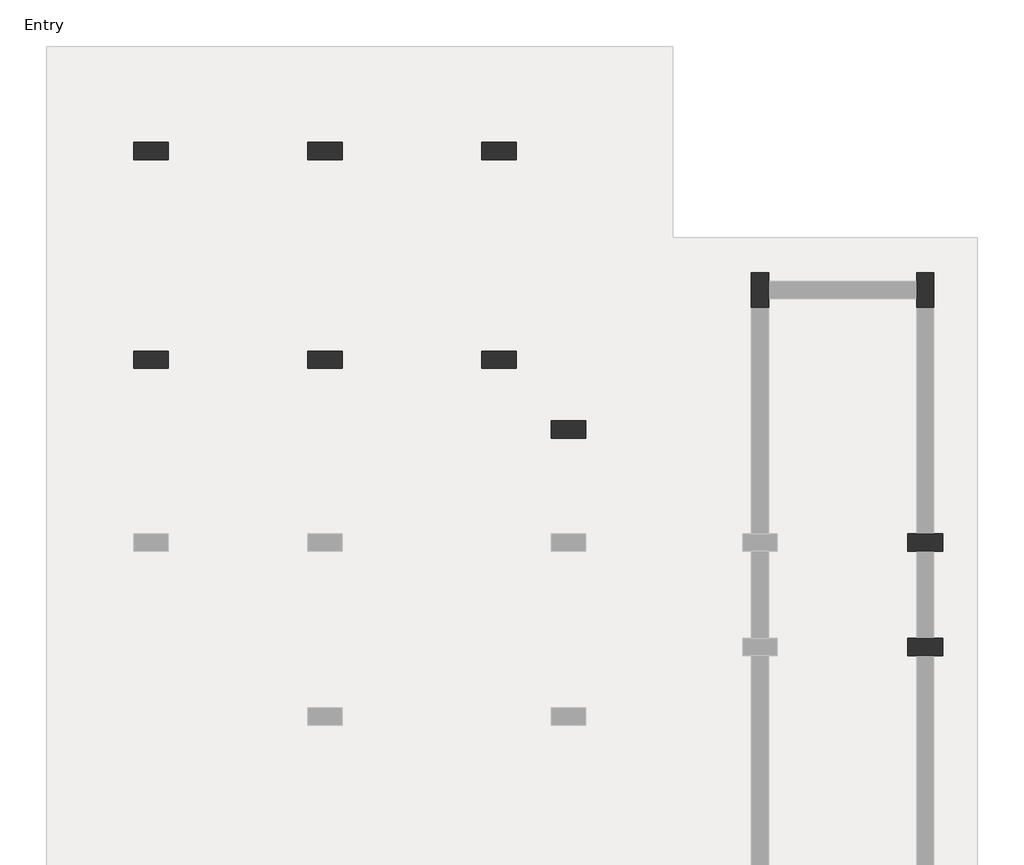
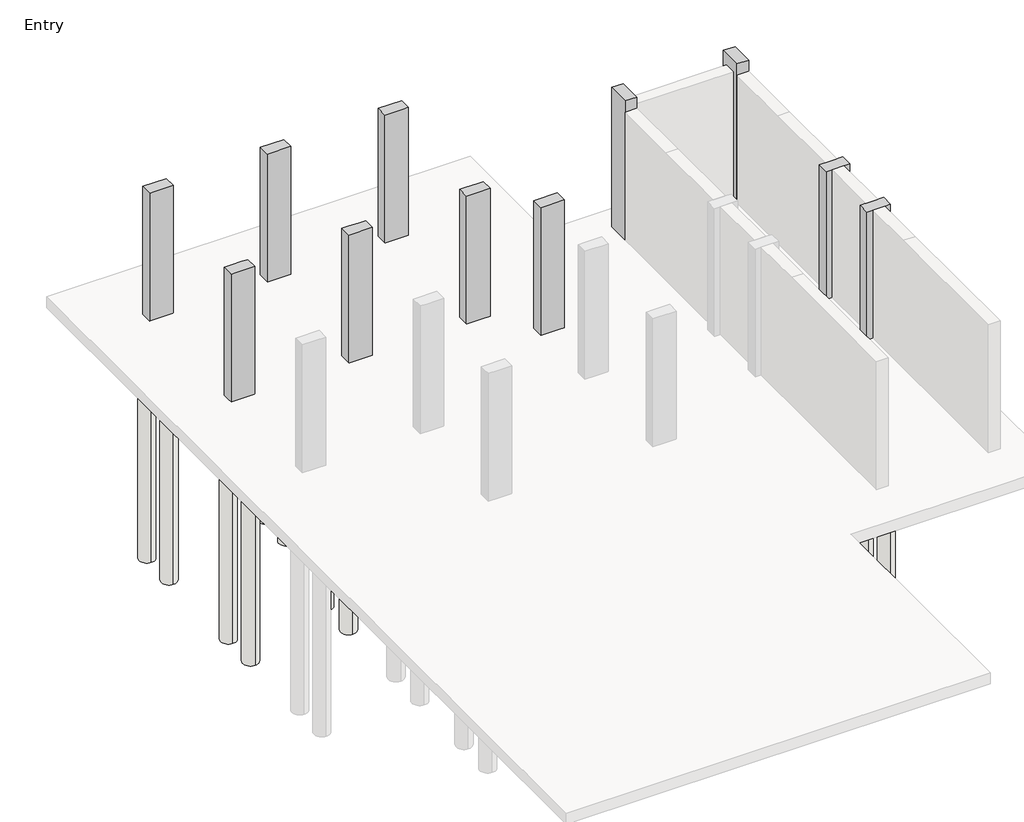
# One storey, part 3 of 3: 35 slabs, 11 columns.
"""IFC4 building model written with IfcOpenShell, lengths in millimetres."""

from ifc_helpers import new_model, si_unit, point, frame, frame_2d, origin, place, context, project, spatial, polyline, circle_curve, trimmed, segment, composite_curve, outline, extrude, faceted_brep, element, save

model = new_model("IFC4")

# Units and contexts
model_context = context("Model", 3, world=origin())
ifc_project = project(units=[si_unit("LENGTHUNIT", "METRE", prefix="MILLI")], contexts=[model_context])

# Site, building, storey
site = spatial("IfcSite", under=ifc_project)
building = spatial("IfcBuilding", under=site)
storey = spatial("IfcBuildingStorey", under=building, Name="Entry", Elevation=0.0)

# Columns
placement = place(None, origin())
element("IfcColumn", 1, ObjectType="Concrete-Rectangular-Column : 12 x 24", at=placement, inside=storey, context=model_context, shape_type="Brep", body=[
    faceted_brep([(-20960.8093661, 22401.5691779, 0.0), (-20351.2093661, 22401.5691779, 0.0), (-20351.2093661, 22096.7691779, 0.0), (-20960.8093661, 22096.7691779, 0.0), (-20960.8093661, 22401.5691779, 3505.2), (-20351.2093661, 22401.5691779, 3505.2), (-20351.2093661, 22401.5691779, 2895.6), (-20351.2093661, 22096.7691779, 3505.2), (-20351.2093661, 22096.7691779, 2895.6), (-20503.6093661, 22096.7691779, 3505.2), (-20808.4093661, 22096.7691779, 3505.2), (-20960.8093661, 22096.7691779, 3505.2)], [[[0, 1, 2, 3]], [[4, 5, 6, 1, 0]], [[5, 7, 8, 2, 1, 6]], [[7, 9, 10, 11, 3, 2, 8]], [[11, 4, 0, 3]], [[4, 11, 10, 9, 7, 5]]]),
])
element("IfcColumn", 2, ObjectType="Concrete-Rectangular-Column : 12 x 24", at=placement, inside=storey, context=model_context, shape_type="Brep", body=[
    faceted_brep([(-17912.8093661, 22401.5691779, 0.0), (-17303.2093661, 22401.5691779, 0.0), (-17303.2093661, 22096.7691779, 0.0), (-17912.8093661, 22096.7691779, 0.0), (-17912.8093661, 22401.5691779, 3505.2), (-17303.2093661, 22401.5691779, 3505.2), (-17303.2093661, 22401.5691779, 2895.6), (-17912.8093661, 22401.5691779, 2895.6), (-17303.2093661, 22096.7691779, 3505.2), (-17303.2093661, 22096.7691779, 2895.6), (-17455.6093661, 22096.7691779, 3505.2), (-17760.4093661, 22096.7691779, 3505.2), (-17912.8093661, 22096.7691779, 3505.2), (-17912.8093661, 22096.7691779, 2895.6)], [[[0, 1, 2, 3]], [[4, 5, 6, 1, 0, 7]], [[5, 8, 9, 2, 1, 6]], [[8, 10, 11, 12, 13, 3, 2, 9]], [[12, 4, 7, 0, 3, 13]], [[4, 12, 11, 10, 8, 5]]]),
])
element("IfcColumn", 3, ObjectType="Concrete-Rectangular-Column : 12 x 24", at=placement, inside=storey, context=model_context, shape_type="Brep", body=[
    faceted_brep([(-14864.8093661, 22401.5691779, 0.0), (-14255.2093661, 22401.5691779, 0.0), (-14255.2093661, 22096.7691779, 0.0), (-14864.8093661, 22096.7691779, 0.0), (-14864.8093661, 22401.5691779, 3505.2), (-14255.2093661, 22401.5691779, 3505.2), (-14864.8093661, 22401.5691779, 2895.6), (-14255.2093661, 22096.7691779, 3505.2), (-14407.6093661, 22096.7691779, 3505.2), (-14712.4093661, 22096.7691779, 3505.2), (-14864.8093661, 22096.7691779, 3505.2), (-14864.8093661, 22096.7691779, 2895.6)], [[[0, 1, 2, 3]], [[4, 5, 1, 0, 6]], [[5, 7, 2, 1]], [[7, 8, 9, 10, 11, 3, 2]], [[10, 4, 6, 0, 3, 11]], [[4, 10, 9, 8, 7, 5]]]),
])
element("IfcColumn", 4, ObjectType="Concrete-Rectangular-Column : 12 x 24", at=placement, inside=storey, context=model_context, shape_type="Brep", body=[
    faceted_brep([(-20960.8093661, 18743.9691779, 0.0), (-20351.2093661, 18743.9691779, 0.0), (-20351.2093661, 18439.1691779, 0.0), (-20960.8093661, 18439.1691779, 0.0), (-20960.8093661, 18743.9691779, 3505.2), (-20808.4093661, 18743.9691779, 3505.2), (-20503.6093661, 18743.9691779, 3505.2), (-20351.2093661, 18743.9691779, 3505.2), (-20351.2093661, 18743.9691779, 2895.6), (-20351.2093661, 18439.1691779, 3505.2), (-20351.2093661, 18439.1691779, 2895.6), (-20503.6093661, 18439.1691779, 3505.2), (-20808.4093661, 18439.1691779, 3505.2), (-20960.8093661, 18439.1691779, 3505.2)], [[[0, 1, 2, 3]], [[4, 5, 6, 7, 8, 1, 0]], [[7, 9, 10, 2, 1, 8]], [[9, 11, 12, 13, 3, 2, 10]], [[13, 4, 0, 3]], [[4, 13, 12, 11, 9, 7, 6, 5]]]),
])
element("IfcColumn", 5, ObjectType="Concrete-Rectangular-Column : 12 x 24", at=placement, inside=storey, context=model_context, shape_type="Brep", body=[
    faceted_brep([(-17912.8093661, 18743.9691779, 0.0), (-17303.2093661, 18743.9691779, 0.0), (-17303.2093661, 18439.1691779, 0.0), (-17912.8093661, 18439.1691779, 0.0), (-17912.8093661, 18743.9691779, 3505.2), (-17760.4093661, 18743.9691779, 3505.2), (-17455.6093661, 18743.9691779, 3505.2), (-17303.2093661, 18743.9691779, 3505.2), (-17303.2093661, 18743.9691779, 2895.6), (-17912.8093661, 18743.9691779, 2895.6), (-17303.2093661, 18439.1691779, 3505.2), (-17303.2093661, 18439.1691779, 2895.6), (-17455.6093661, 18439.1691779, 3505.2), (-17760.4093661, 18439.1691779, 3505.2), (-17912.8093661, 18439.1691779, 3505.2), (-17912.8093661, 18439.1691779, 2895.6)], [[[0, 1, 2, 3]], [[4, 5, 6, 7, 8, 1, 0, 9]], [[7, 10, 11, 2, 1, 8]], [[10, 12, 13, 14, 15, 3, 2, 11]], [[14, 4, 9, 0, 3, 15]], [[4, 14, 13, 12, 10, 7, 6, 5]]]),
])
element("IfcColumn", 6, ObjectType="Concrete-Rectangular-Column : 12 x 24", at=placement, inside=storey, context=model_context, shape_type="Brep", body=[
    faceted_brep([(-14864.8093661, 18743.9691779, 0.0), (-14255.2093661, 18743.9691779, 0.0), (-14255.2093661, 18439.1691779, 0.0), (-14864.8093661, 18439.1691779, 0.0), (-14864.8093661, 18743.9691779, 3505.2), (-14712.4093661, 18743.9691779, 3505.2), (-14407.6093661, 18743.9691779, 3505.2), (-14255.2093661, 18743.9691779, 3505.2), (-14864.8093661, 18743.9691779, 2895.6), (-14255.2093661, 18439.1691779, 3505.2), (-14407.6093661, 18439.1691779, 3505.2), (-14712.4093661, 18439.1691779, 3505.2), (-14864.8093661, 18439.1691779, 3505.2), (-14864.8093661, 18439.1691779, 2895.6)], [[[0, 1, 2, 3]], [[4, 5, 6, 7, 1, 0, 8]], [[7, 9, 2, 1]], [[9, 10, 11, 12, 13, 3, 2]], [[12, 4, 8, 0, 3, 13]], [[4, 12, 11, 10, 9, 7, 6, 5]]]),
])
element("IfcColumn", 7, ObjectType="Concrete-Rectangular-Column : 12 x 24", at=placement, inside=storey, context=model_context, shape_type="Brep", body=[
    faceted_brep([(-13645.6093661, 17524.7691779, 0.0), (-13036.0093661, 17524.7691779, 0.0), (-13036.0093661, 17219.9691779, 0.0), (-13645.6093661, 17219.9691779, 0.0), (-13645.6093661, 17524.7691779, 3505.2), (-13036.0093661, 17524.7691779, 3505.2), (-13645.6093661, 17524.7691779, 2895.6), (-13036.0093661, 17219.9691779, 3505.2), (-13188.4093661, 17219.9691779, 3505.2), (-13493.2093661, 17219.9691779, 3505.2), (-13645.6093661, 17219.9691779, 3505.2), (-13645.6093661, 17219.9691779, 2895.6)], [[[0, 1, 2, 3]], [[4, 5, 1, 0, 6]], [[5, 7, 2, 1]], [[7, 8, 9, 10, 11, 3, 2]], [[10, 4, 6, 0, 3, 11]], [[4, 10, 9, 8, 7, 5]]]),
])
element("IfcColumn", 8, ObjectType="Concrete-Rectangular-Column : 12 x 24", at=placement, inside=storey, context=model_context, shape_type="Brep", body=[
    faceted_brep([(-7397.2093661, 15543.5691779, 0.0), (-7244.8093661, 15543.5691779, 0.0), (-6940.0093661, 15543.5691779, 0.0), (-6787.6093661, 15543.5691779, 0.0), (-6787.6093661, 15238.7691779, 0.0), (-6940.0093661, 15238.7691779, 0.0), (-7244.8093661, 15238.7691779, 0.0), (-7397.2093661, 15238.7691779, 0.0), (-7397.2093661, 15543.5691779, 3505.2), (-7244.8093661, 15543.5691779, 3505.2), (-6940.0093661, 15543.5691779, 3505.2), (-6787.6093661, 15543.5691779, 3505.2), (-6787.6093661, 15238.7691779, 3505.2), (-6940.0093661, 15238.7691779, 3505.2), (-7244.8093661, 15238.7691779, 3505.2), (-7397.2093661, 15238.7691779, 3505.2)], [[[0, 1, 2, 3, 4, 5, 6, 7]], [[3, 2, 1, 0, 8, 9, 10, 11]], [[4, 3, 11, 12]], [[7, 6, 5, 4, 12, 13, 14, 15]], [[0, 7, 15, 8]], [[11, 10, 9, 8, 15, 14, 13, 12]]]),
])
element("IfcColumn", 9, ObjectType="Concrete-Rectangular-Column : 12 x 24", at=placement, inside=storey, context=model_context, shape_type="Brep", body=[
    faceted_brep([(-7397.2093661, 13714.7691779, 0.0), (-7244.8093661, 13714.7691779, 0.0), (-6940.0093661, 13714.7691779, 0.0), (-6787.6093661, 13714.7691779, 0.0), (-6787.6093661, 13409.9691779, 0.0), (-6940.0093661, 13409.9691779, 0.0), (-7244.8093661, 13409.9691779, 0.0), (-7397.2093661, 13409.9691779, 0.0), (-7397.2093661, 13714.7691779, 3505.2), (-7244.8093661, 13714.7691779, 3505.2), (-6940.0093661, 13714.7691779, 3505.2), (-6787.6093661, 13714.7691779, 3505.2), (-6787.6093661, 13409.9691779, 3505.2), (-6940.0093661, 13409.9691779, 3505.2), (-7244.8093661, 13409.9691779, 3505.2), (-7397.2093661, 13409.9691779, 3505.2)], [[[0, 1, 2, 3, 4, 5, 6, 7]], [[3, 2, 1, 0, 8, 9, 10, 11]], [[4, 3, 11, 12]], [[7, 6, 5, 4, 12, 13, 14, 15]], [[0, 7, 15, 8]], [[11, 10, 9, 8, 15, 14, 13, 12]]]),
])
element("IfcColumn", 10, ObjectType="Concrete-Rectangular-Column : 12 x 24", at=placement, inside=storey, context=model_context, shape_type="Brep", body=[
    faceted_brep([(-10140.4093661, 19505.9691779, 0.0), (-10140.4093661, 20115.5691779, 0.0), (-9835.6093661, 20115.5691779, 0.0), (-9835.6093661, 19963.1691779, 0.0), (-9835.6093661, 19658.3691779, 0.0), (-9835.6093661, 19505.9691779, 0.0), (-10140.4093661, 19505.9691779, 3810.0), (-10140.4093661, 20115.5691779, 3810.0), (-10140.4093661, 19505.9691779, 3505.2), (-9835.6093661, 20115.5691779, 3810.0), (-9835.6093661, 19505.9691779, 3810.0), (-9835.6093661, 19505.9691779, 3505.2)], [[[0, 1, 2, 3, 4, 5]], [[6, 7, 1, 0, 8]], [[7, 9, 2, 1]], [[9, 10, 11, 5, 4, 3, 2]], [[10, 6, 8, 0, 5, 11]], [[6, 10, 9, 7]]]),
])
element("IfcColumn", 11, ObjectType="Concrete-Rectangular-Column : 12 x 24", at=placement, inside=storey, context=model_context, shape_type="Brep", body=[
    faceted_brep([(-7244.8093661, 19505.9691779, 0.0), (-7244.8093661, 19658.3691779, 0.0), (-7244.8093661, 19963.1691779, 0.0), (-7244.8093661, 20115.5691779, 0.0), (-6940.0093661, 20115.5691779, 0.0), (-6940.0093661, 19505.9691779, 0.0), (-7244.8093661, 19505.9691779, 3810.0), (-7244.8093661, 20115.5691779, 3810.0), (-7244.8093661, 19505.9691779, 3505.2), (-6940.0093661, 20115.5691779, 3810.0), (-6940.0093661, 19505.9691779, 3810.0), (-6940.0093661, 19505.9691779, 3505.2)], [[[0, 1, 2, 3, 4, 5]], [[6, 7, 3, 2, 1, 0, 8]], [[7, 9, 4, 3]], [[9, 10, 11, 5, 4]], [[10, 6, 8, 0, 5, 11]], [[6, 10, 9, 7]]]),
])

# Slabs
element("IfcSlab", 12, ObjectType="Pile Cap-2 Pile : 31\"x61\"x35\"", at=placement, inside=storey, context=model_context, shape_type="SweptSolid", body=[
    extrude(outline(polyline([(-21062.4093661, 23150.8691779), (-20249.6093661, 23150.8691779), (-20249.6093661, 21347.4691779), (-21062.4093661, 21347.4691779), (-21062.4093661, 23150.8691779)])), frame((0.0, 0.0, -889.0), z_axis=(0.0, 0.0, 1.0), x_axis=(1.0, 0.0, 0.0)), (0.0, 0.0, 1.0), 584.2),
])
element("IfcSlab", 13, ObjectType="Pile Cap-2 Pile : 31\"x61\"x35\"", at=placement, inside=storey, context=model_context, shape_type="SweptSolid", body=[
    extrude(outline(polyline([(-18014.4093661, 23150.8691779), (-17201.6093661, 23150.8691779), (-17201.6093661, 21347.4691779), (-18014.4093661, 21347.4691779), (-18014.4093661, 23150.8691779)])), frame((0.0, 0.0, -889.0), z_axis=(0.0, 0.0, 1.0), x_axis=(1.0, 0.0, 0.0)), (0.0, 0.0, 1.0), 584.2),
])
element("IfcSlab", 14, ObjectType="Pile Cap-2 Pile : 31\"x61\"x35\"", at=placement, inside=storey, context=model_context, shape_type="SweptSolid", body=[
    extrude(outline(polyline([(-14966.4093661, 23150.8691779), (-14153.6093661, 23150.8691779), (-14153.6093661, 21347.4691779), (-14966.4093661, 21347.4691779), (-14966.4093661, 23150.8691779)])), frame((0.0, 0.0, -889.0), z_axis=(0.0, 0.0, 1.0), x_axis=(1.0, 0.0, 0.0)), (0.0, 0.0, 1.0), 584.2),
])
element("IfcSlab", 15, ObjectType="Pile Cap-2 Pile : 31\"x61\"x35\"", at=placement, inside=storey, context=model_context, shape_type="Brep", body=[
    faceted_brep([(-14966.4093661, 19493.2691779, -889.0), (-14153.6093661, 19493.2691779, -889.0), (-14153.6093661, 17778.7691779, -889.0), (-14153.6093661, 17689.8691779, -889.0), (-14242.5093661, 17689.8691779, -889.0), (-14966.4093661, 17689.8691779, -889.0), (-14966.4093661, 17689.8691779, -304.8), (-14966.4093661, 19493.2691779, -304.8), (-14153.6093661, 17689.8691779, -304.8), (-14242.5093661, 17689.8691779, -304.8), (-14153.6093661, 19493.2691779, -304.8), (-14153.6093661, 17778.7691779, -304.8)], [[[0, 1, 2, 3, 4, 5]], [[0, 5, 6, 7]], [[5, 4, 3, 8, 9, 6]], [[3, 2, 1, 10, 11, 8]], [[1, 0, 7, 10]], [[7, 6, 9, 8, 11, 10]]]),
])
element("IfcSlab", 16, ObjectType="Pile Cap-2 Pile : 31\"x61\"x35\"", at=placement, inside=storey, context=model_context, shape_type="SweptSolid", body=[
    extrude(outline(polyline([(-21062.4093661, 19493.2691779), (-20249.6093661, 19493.2691779), (-20249.6093661, 17689.8691779), (-21062.4093661, 17689.8691779), (-21062.4093661, 19493.2691779)])), frame((0.0, 0.0, -889.0), z_axis=(0.0, 0.0, 1.0), x_axis=(1.0, 0.0, 0.0)), (0.0, 0.0, 1.0), 584.2),
])
element("IfcSlab", 17, ObjectType="Pile Cap-2 Pile : 31\"x61\"x35\"", at=placement, inside=storey, context=model_context, shape_type="SweptSolid", body=[
    extrude(outline(polyline([(-10889.7093661, 19404.3691779), (-10889.7093661, 20217.1691779), (-9086.3093661, 20217.1691779), (-9086.3093661, 19404.3691779), (-10889.7093661, 19404.3691779)])), frame((0.0, 0.0, -889.0), z_axis=(0.0, 0.0, 1.0), x_axis=(1.0, 0.0, 0.0)), (0.0, 0.0, 1.0), 584.2),
])
element("IfcSlab", 18, ObjectType="Pile Cap-2 Pile : 31\"x61\"x35\"", at=placement, inside=storey, context=model_context, shape_type="SweptSolid", body=[
    extrude(outline(polyline([(-7994.1093661, 19404.3691779), (-7994.1093661, 20217.1691779), (-6190.7093661, 20217.1691779), (-6190.7093661, 19404.3691779), (-7994.1093661, 19404.3691779)])), frame((0.0, 0.0, -889.0), z_axis=(0.0, 0.0, 1.0), x_axis=(1.0, 0.0, 0.0)), (0.0, 0.0, 1.0), 584.2),
])
element("IfcSlab", 19, ObjectType="Pile Cap-2 Pile : 31\"x61\"x35\"", at=placement, inside=storey, context=model_context, shape_type="SweptSolid", body=[
    extrude(outline(polyline([(-7498.8093661, 16292.8691779), (-6686.0093661, 16292.8691779), (-6686.0093661, 14489.4691779), (-7498.8093661, 14489.4691779), (-7498.8093661, 16292.8691779)])), frame((0.0, 0.0, -889.0), z_axis=(0.0, 0.0, 1.0), x_axis=(1.0, 0.0, 0.0)), (0.0, 0.0, 1.0), 584.2),
])
element("IfcSlab", 20, ObjectType="Pile Cap-2 Pile : 31\"x61\"x35\"", at=placement, inside=storey, context=model_context, shape_type="SweptSolid", body=[
    extrude(outline(polyline([(-7498.8093661, 14464.0691779), (-6686.0093661, 14464.0691779), (-6686.0093661, 12660.6691779), (-7498.8093661, 12660.6691779), (-7498.8093661, 14464.0691779)])), frame((0.0, 0.0, -889.0), z_axis=(0.0, 0.0, 1.0), x_axis=(1.0, 0.0, 0.0)), (0.0, 0.0, 1.0), 584.2),
])
element("IfcSlab", 21, ObjectType="Pile Cap-2 Pile : 31\"x61\"x35\"", at=placement, inside=storey, context=model_context, shape_type="SweptSolid", body=[
    extrude(outline(polyline([(-12439.1093661, 17778.7691779), (-12439.1093661, 16965.9691779), (-14242.5093661, 16965.9691779), (-14242.5093661, 17689.8691779), (-14153.6093661, 17689.8691779), (-14153.6093661, 17778.7691779), (-12439.1093661, 17778.7691779)])), frame((0.0, 0.0, -889.0), z_axis=(0.0, 0.0, 1.0), x_axis=(1.0, 0.0, 0.0)), (0.0, 0.0, 1.0), 584.2),
])
element("IfcSlab", 22, ObjectType="Pile Cap-4 Pile : 72\"x72\"x35\"", at=placement, inside=storey, context=model_context, shape_type="SweptSolid", body=[
    extrude(outline(polyline([(-18522.4093661, 19505.9691779), (-16693.6093661, 19505.9691779), (-16693.6093661, 17677.1691779), (-18522.4093661, 17677.1691779), (-18522.4093661, 19505.9691779)])), frame((0.0, 0.0, -889.0), z_axis=(0.0, 0.0, 1.0), x_axis=(1.0, 0.0, 0.0)), (0.0, 0.0, 1.0), 584.2),
])
element("IfcSlab", 23, ObjectType="Pile-Steel Pipe : 16\" Diameter", at=placement, inside=storey, context=model_context, shape_type="SweptSolid", body=[
    extrude(outline(composite_curve([segment(trimmed(circle_curve(frame_2d((-18141.4093661, 18058.1691779)), 203.2), [point((-18141.4093661, 17854.9691779))], [point((-18141.4093661, 18261.3691779))], False, "CARTESIAN"), True, "CONTINUOUS"), segment(trimmed(circle_curve(frame_2d((-18141.4093661, 18058.1691779)), 203.2), [point((-18141.4093661, 18261.3691779))], [point((-18141.4093661, 17854.9691779))], False, "CARTESIAN"), True, "CONTINUOUS")], self_intersect=False)), frame((0.0, 0.0, -6985.0), z_axis=(0.0, 0.0, 1.0), x_axis=(1.0, 0.0, 0.0)), (0.0, 0.0, 1.0), 6096.0),
])
element("IfcSlab", 24, ObjectType="Pile-Steel Pipe : 16\" Diameter", at=placement, inside=storey, context=model_context, shape_type="SweptSolid", body=[
    extrude(outline(composite_curve([segment(trimmed(circle_curve(frame_2d((-17074.6093661, 18058.1691779)), 203.2), [point((-17074.6093661, 17854.9691779))], [point((-17074.6093661, 18261.3691779))], False, "CARTESIAN"), True, "CONTINUOUS"), segment(trimmed(circle_curve(frame_2d((-17074.6093661, 18058.1691779)), 203.2), [point((-17074.6093661, 18261.3691779))], [point((-17074.6093661, 17854.9691779))], False, "CARTESIAN"), True, "CONTINUOUS")], self_intersect=False)), frame((0.0, 0.0, -6985.0), z_axis=(0.0, 0.0, 1.0), x_axis=(1.0, 0.0, 0.0)), (0.0, 0.0, 1.0), 6096.0),
])
element("IfcSlab", 25, ObjectType="Pile-Steel Pipe : 16\" Diameter", at=placement, inside=storey, context=model_context, shape_type="SweptSolid", body=[
    extrude(outline(composite_curve([segment(trimmed(circle_curve(frame_2d((-17074.6093661, 19124.9691779)), 203.2), [point((-17074.6093661, 18921.7691779))], [point((-17074.6093661, 19328.1691779))], False, "CARTESIAN"), True, "CONTINUOUS"), segment(trimmed(circle_curve(frame_2d((-17074.6093661, 19124.9691779)), 203.2), [point((-17074.6093661, 19328.1691779))], [point((-17074.6093661, 18921.7691779))], False, "CARTESIAN"), True, "CONTINUOUS")], self_intersect=False)), frame((0.0, 0.0, -6985.0), z_axis=(0.0, 0.0, 1.0), x_axis=(1.0, 0.0, 0.0)), (0.0, 0.0, 1.0), 6096.0),
])
element("IfcSlab", 26, ObjectType="Pile-Steel Pipe : 16\" Diameter", at=placement, inside=storey, context=model_context, shape_type="SweptSolid", body=[
    extrude(outline(composite_curve([segment(trimmed(circle_curve(frame_2d((-18141.4093661, 19124.9691779)), 203.2), [point((-18141.4093661, 18921.7691779))], [point((-18141.4093661, 19328.1691779))], False, "CARTESIAN"), True, "CONTINUOUS"), segment(trimmed(circle_curve(frame_2d((-18141.4093661, 19124.9691779)), 203.2), [point((-18141.4093661, 19328.1691779))], [point((-18141.4093661, 18921.7691779))], False, "CARTESIAN"), True, "CONTINUOUS")], self_intersect=False)), frame((0.0, 0.0, -6985.0), z_axis=(0.0, 0.0, 1.0), x_axis=(1.0, 0.0, 0.0)), (0.0, 0.0, 1.0), 6096.0),
])
element("IfcSlab", 27, ObjectType="Pile-Steel Pipe : 16\" Diameter", at=placement, inside=storey, context=model_context, shape_type="SweptSolid", body=[
    extrude(outline(composite_curve([segment(trimmed(circle_curve(frame_2d((-20656.0093661, 22744.4691779)), 203.2), [point((-20656.0093661, 22541.2691779))], [point((-20656.0093661, 22947.6691779))], False, "CARTESIAN"), True, "CONTINUOUS"), segment(trimmed(circle_curve(frame_2d((-20656.0093661, 22744.4691779)), 203.2), [point((-20656.0093661, 22947.6691779))], [point((-20656.0093661, 22541.2691779))], False, "CARTESIAN"), True, "CONTINUOUS")], self_intersect=False)), frame((0.0, 0.0, -6985.0), z_axis=(0.0, 0.0, 1.0), x_axis=(1.0, 0.0, 0.0)), (0.0, 0.0, 1.0), 6096.0),
])
element("IfcSlab", 28, ObjectType="Pile-Steel Pipe : 16\" Diameter", at=placement, inside=storey, context=model_context, shape_type="SweptSolid", body=[
    extrude(outline(composite_curve([segment(trimmed(circle_curve(frame_2d((-20656.0093661, 21753.8691779)), 203.2), [point((-20656.0093661, 21550.6691779))], [point((-20656.0093661, 21957.0691779))], False, "CARTESIAN"), True, "CONTINUOUS"), segment(trimmed(circle_curve(frame_2d((-20656.0093661, 21753.8691779)), 203.2), [point((-20656.0093661, 21957.0691779))], [point((-20656.0093661, 21550.6691779))], False, "CARTESIAN"), True, "CONTINUOUS")], self_intersect=False)), frame((0.0, 0.0, -6985.0), z_axis=(0.0, 0.0, 1.0), x_axis=(1.0, 0.0, 0.0)), (0.0, 0.0, 1.0), 6096.0),
])
element("IfcSlab", 29, ObjectType="Pile-Steel Pipe : 16\" Diameter", at=placement, inside=storey, context=model_context, shape_type="SweptSolid", body=[
    extrude(outline(composite_curve([segment(trimmed(circle_curve(frame_2d((-17608.0093661, 22744.4691779)), 203.2), [point((-17608.0093661, 22541.2691779))], [point((-17608.0093661, 22947.6691779))], False, "CARTESIAN"), True, "CONTINUOUS"), segment(trimmed(circle_curve(frame_2d((-17608.0093661, 22744.4691779)), 203.2), [point((-17608.0093661, 22947.6691779))], [point((-17608.0093661, 22541.2691779))], False, "CARTESIAN"), True, "CONTINUOUS")], self_intersect=False)), frame((0.0, 0.0, -6985.0), z_axis=(0.0, 0.0, 1.0), x_axis=(1.0, 0.0, 0.0)), (0.0, 0.0, 1.0), 6096.0),
])
element("IfcSlab", 30, ObjectType="Pile-Steel Pipe : 16\" Diameter", at=placement, inside=storey, context=model_context, shape_type="SweptSolid", body=[
    extrude(outline(composite_curve([segment(trimmed(circle_curve(frame_2d((-17608.0093661, 21753.8691779)), 203.2), [point((-17608.0093661, 21550.6691779))], [point((-17608.0093661, 21957.0691779))], False, "CARTESIAN"), True, "CONTINUOUS"), segment(trimmed(circle_curve(frame_2d((-17608.0093661, 21753.8691779)), 203.2), [point((-17608.0093661, 21957.0691779))], [point((-17608.0093661, 21550.6691779))], False, "CARTESIAN"), True, "CONTINUOUS")], self_intersect=False)), frame((0.0, 0.0, -6985.0), z_axis=(0.0, 0.0, 1.0), x_axis=(1.0, 0.0, 0.0)), (0.0, 0.0, 1.0), 6096.0),
])
element("IfcSlab", 31, ObjectType="Pile-Steel Pipe : 16\" Diameter", at=placement, inside=storey, context=model_context, shape_type="SweptSolid", body=[
    extrude(outline(composite_curve([segment(trimmed(circle_curve(frame_2d((-14560.0093661, 22744.4691779)), 203.2), [point((-14560.0093661, 22541.2691779))], [point((-14560.0093661, 22947.6691779))], False, "CARTESIAN"), True, "CONTINUOUS"), segment(trimmed(circle_curve(frame_2d((-14560.0093661, 22744.4691779)), 203.2), [point((-14560.0093661, 22947.6691779))], [point((-14560.0093661, 22541.2691779))], False, "CARTESIAN"), True, "CONTINUOUS")], self_intersect=False)), frame((0.0, 0.0, -6985.0), z_axis=(0.0, 0.0, 1.0), x_axis=(1.0, 0.0, 0.0)), (0.0, 0.0, 1.0), 6096.0),
])
element("IfcSlab", 32, ObjectType="Pile-Steel Pipe : 16\" Diameter", at=placement, inside=storey, context=model_context, shape_type="SweptSolid", body=[
    extrude(outline(composite_curve([segment(trimmed(circle_curve(frame_2d((-14560.0093661, 21753.8691779)), 203.2), [point((-14560.0093661, 21550.6691779))], [point((-14560.0093661, 21957.0691779))], False, "CARTESIAN"), True, "CONTINUOUS"), segment(trimmed(circle_curve(frame_2d((-14560.0093661, 21753.8691779)), 203.2), [point((-14560.0093661, 21957.0691779))], [point((-14560.0093661, 21550.6691779))], False, "CARTESIAN"), True, "CONTINUOUS")], self_intersect=False)), frame((0.0, 0.0, -6985.0), z_axis=(0.0, 0.0, 1.0), x_axis=(1.0, 0.0, 0.0)), (0.0, 0.0, 1.0), 6096.0),
])
element("IfcSlab", 33, ObjectType="Pile-Steel Pipe : 16\" Diameter", at=placement, inside=storey, context=model_context, shape_type="SweptSolid", body=[
    extrude(outline(composite_curve([segment(trimmed(circle_curve(frame_2d((-14560.0093661, 19086.8691779)), 203.2), [point((-14560.0093661, 18883.6691779))], [point((-14560.0093661, 19290.0691779))], False, "CARTESIAN"), True, "CONTINUOUS"), segment(trimmed(circle_curve(frame_2d((-14560.0093661, 19086.8691779)), 203.2), [point((-14560.0093661, 19290.0691779))], [point((-14560.0093661, 18883.6691779))], False, "CARTESIAN"), True, "CONTINUOUS")], self_intersect=False)), frame((0.0, 0.0, -6985.0), z_axis=(0.0, 0.0, 1.0), x_axis=(1.0, 0.0, 0.0)), (0.0, 0.0, 1.0), 6096.0),
])
element("IfcSlab", 34, ObjectType="Pile-Steel Pipe : 16\" Diameter", at=placement, inside=storey, context=model_context, shape_type="SweptSolid", body=[
    extrude(outline(composite_curve([segment(trimmed(circle_curve(frame_2d((-14560.0093661, 18096.2691779)), 203.2), [point((-14560.0093661, 17893.0691779))], [point((-14560.0093661, 18299.4691779))], False, "CARTESIAN"), True, "CONTINUOUS"), segment(trimmed(circle_curve(frame_2d((-14560.0093661, 18096.2691779)), 203.2), [point((-14560.0093661, 18299.4691779))], [point((-14560.0093661, 17893.0691779))], False, "CARTESIAN"), True, "CONTINUOUS")], self_intersect=False)), frame((0.0, 0.0, -6985.0), z_axis=(0.0, 0.0, 1.0), x_axis=(1.0, 0.0, 0.0)), (0.0, 0.0, 1.0), 6096.0),
])
element("IfcSlab", 35, ObjectType="Pile-Steel Pipe : 16\" Diameter", at=placement, inside=storey, context=model_context, shape_type="SweptSolid", body=[
    extrude(outline(composite_curve([segment(trimmed(circle_curve(frame_2d((-20656.0093661, 19086.8691779)), 203.2), [point((-20656.0093661, 18883.6691779))], [point((-20656.0093661, 19290.0691779))], False, "CARTESIAN"), True, "CONTINUOUS"), segment(trimmed(circle_curve(frame_2d((-20656.0093661, 19086.8691779)), 203.2), [point((-20656.0093661, 19290.0691779))], [point((-20656.0093661, 18883.6691779))], False, "CARTESIAN"), True, "CONTINUOUS")], self_intersect=False)), frame((0.0, 0.0, -6985.0), z_axis=(0.0, 0.0, 1.0), x_axis=(1.0, 0.0, 0.0)), (0.0, 0.0, 1.0), 6096.0),
])
element("IfcSlab", 36, ObjectType="Pile-Steel Pipe : 16\" Diameter", at=placement, inside=storey, context=model_context, shape_type="SweptSolid", body=[
    extrude(outline(composite_curve([segment(trimmed(circle_curve(frame_2d((-20656.0093661, 18096.2691779)), 203.2), [point((-20656.0093661, 17893.0691779))], [point((-20656.0093661, 18299.4691779))], False, "CARTESIAN"), True, "CONTINUOUS"), segment(trimmed(circle_curve(frame_2d((-20656.0093661, 18096.2691779)), 203.2), [point((-20656.0093661, 18299.4691779))], [point((-20656.0093661, 17893.0691779))], False, "CARTESIAN"), True, "CONTINUOUS")], self_intersect=False)), frame((0.0, 0.0, -6985.0), z_axis=(0.0, 0.0, 1.0), x_axis=(1.0, 0.0, 0.0)), (0.0, 0.0, 1.0), 6096.0),
])
element("IfcSlab", 37, ObjectType="Pile-Steel Pipe : 16\" Diameter", at=placement, inside=storey, context=model_context, shape_type="SweptSolid", body=[
    extrude(outline(composite_curve([segment(trimmed(circle_curve(frame_2d((-10483.3093661, 19810.7691779)), 203.2), [point((-10280.1093661, 19810.7691779))], [point((-10686.5093661, 19810.7691779))], False, "CARTESIAN"), True, "CONTINUOUS"), segment(trimmed(circle_curve(frame_2d((-10483.3093661, 19810.7691779)), 203.2), [point((-10686.5093661, 19810.7691779))], [point((-10280.1093661, 19810.7691779))], False, "CARTESIAN"), True, "CONTINUOUS")], self_intersect=False)), frame((0.0, 0.0, -6985.0), z_axis=(0.0, 0.0, 1.0), x_axis=(1.0, 0.0, 0.0)), (0.0, 0.0, 1.0), 6096.0),
])
element("IfcSlab", 38, ObjectType="Pile-Steel Pipe : 16\" Diameter", at=placement, inside=storey, context=model_context, shape_type="SweptSolid", body=[
    extrude(outline(composite_curve([segment(trimmed(circle_curve(frame_2d((-9492.7093661, 19810.7691779)), 203.2), [point((-9289.5093661, 19810.7691779))], [point((-9695.9093661, 19810.7691779))], False, "CARTESIAN"), True, "CONTINUOUS"), segment(trimmed(circle_curve(frame_2d((-9492.7093661, 19810.7691779)), 203.2), [point((-9695.9093661, 19810.7691779))], [point((-9289.5093661, 19810.7691779))], False, "CARTESIAN"), True, "CONTINUOUS")], self_intersect=False)), frame((0.0, 0.0, -6985.0), z_axis=(0.0, 0.0, 1.0), x_axis=(1.0, 0.0, 0.0)), (0.0, 0.0, 1.0), 6096.0),
])
element("IfcSlab", 39, ObjectType="Pile-Steel Pipe : 16\" Diameter", at=placement, inside=storey, context=model_context, shape_type="SweptSolid", body=[
    extrude(outline(composite_curve([segment(trimmed(circle_curve(frame_2d((-7587.7093661, 19810.7691779)), 203.2), [point((-7384.5093661, 19810.7691779))], [point((-7790.9093661, 19810.7691779))], False, "CARTESIAN"), True, "CONTINUOUS"), segment(trimmed(circle_curve(frame_2d((-7587.7093661, 19810.7691779)), 203.2), [point((-7790.9093661, 19810.7691779))], [point((-7384.5093661, 19810.7691779))], False, "CARTESIAN"), True, "CONTINUOUS")], self_intersect=False)), frame((0.0, 0.0, -6985.0), z_axis=(0.0, 0.0, 1.0), x_axis=(1.0, 0.0, 0.0)), (0.0, 0.0, 1.0), 6096.0),
])
element("IfcSlab", 40, ObjectType="Pile-Steel Pipe : 16\" Diameter", at=placement, inside=storey, context=model_context, shape_type="SweptSolid", body=[
    extrude(outline(composite_curve([segment(trimmed(circle_curve(frame_2d((-6597.1093661, 19810.7691779)), 203.2), [point((-6393.9093661, 19810.7691779))], [point((-6800.3093661, 19810.7691779))], False, "CARTESIAN"), True, "CONTINUOUS"), segment(trimmed(circle_curve(frame_2d((-6597.1093661, 19810.7691779)), 203.2), [point((-6800.3093661, 19810.7691779))], [point((-6393.9093661, 19810.7691779))], False, "CARTESIAN"), True, "CONTINUOUS")], self_intersect=False)), frame((0.0, 0.0, -6985.0), z_axis=(0.0, 0.0, 1.0), x_axis=(1.0, 0.0, 0.0)), (0.0, 0.0, 1.0), 6096.0),
])
element("IfcSlab", 41, ObjectType="Pile-Steel Pipe : 16\" Diameter", at=placement, inside=storey, context=model_context, shape_type="SweptSolid", body=[
    extrude(outline(composite_curve([segment(trimmed(circle_curve(frame_2d((-7092.4093661, 15886.4691779)), 203.2), [point((-7092.4093661, 15683.2691779))], [point((-7092.4093661, 16089.6691779))], False, "CARTESIAN"), True, "CONTINUOUS"), segment(trimmed(circle_curve(frame_2d((-7092.4093661, 15886.4691779)), 203.2), [point((-7092.4093661, 16089.6691779))], [point((-7092.4093661, 15683.2691779))], False, "CARTESIAN"), True, "CONTINUOUS")], self_intersect=False)), frame((0.0, 0.0, -6985.0), z_axis=(0.0, 0.0, 1.0), x_axis=(1.0, 0.0, 0.0)), (0.0, 0.0, 1.0), 6096.0),
])
element("IfcSlab", 42, ObjectType="Pile-Steel Pipe : 16\" Diameter", at=placement, inside=storey, context=model_context, shape_type="SweptSolid", body=[
    extrude(outline(composite_curve([segment(trimmed(circle_curve(frame_2d((-7092.4093661, 14895.8691779)), 203.2), [point((-7092.4093661, 14692.6691779))], [point((-7092.4093661, 15099.0691779))], False, "CARTESIAN"), True, "CONTINUOUS"), segment(trimmed(circle_curve(frame_2d((-7092.4093661, 14895.8691779)), 203.2), [point((-7092.4093661, 15099.0691779))], [point((-7092.4093661, 14692.6691779))], False, "CARTESIAN"), True, "CONTINUOUS")], self_intersect=False)), frame((0.0, 0.0, -6985.0), z_axis=(0.0, 0.0, 1.0), x_axis=(1.0, 0.0, 0.0)), (0.0, 0.0, 1.0), 6096.0),
])
element("IfcSlab", 43, ObjectType="Pile-Steel Pipe : 16\" Diameter", at=placement, inside=storey, context=model_context, shape_type="SweptSolid", body=[
    extrude(outline(composite_curve([segment(trimmed(circle_curve(frame_2d((-7092.4093661, 14057.6691779)), 203.2), [point((-7092.4093661, 13854.4691779))], [point((-7092.4093661, 14260.8691779))], False, "CARTESIAN"), True, "CONTINUOUS"), segment(trimmed(circle_curve(frame_2d((-7092.4093661, 14057.6691779)), 203.2), [point((-7092.4093661, 14260.8691779))], [point((-7092.4093661, 13854.4691779))], False, "CARTESIAN"), True, "CONTINUOUS")], self_intersect=False)), frame((0.0, 0.0, -6985.0), z_axis=(0.0, 0.0, 1.0), x_axis=(1.0, 0.0, 0.0)), (0.0, 0.0, 1.0), 6096.0),
])
element("IfcSlab", 44, ObjectType="Pile-Steel Pipe : 16\" Diameter", at=placement, inside=storey, context=model_context, shape_type="SweptSolid", body=[
    extrude(outline(composite_curve([segment(trimmed(circle_curve(frame_2d((-7092.4093661, 13067.0691779)), 203.2), [point((-7092.4093661, 12863.8691779))], [point((-7092.4093661, 13270.2691779))], False, "CARTESIAN"), True, "CONTINUOUS"), segment(trimmed(circle_curve(frame_2d((-7092.4093661, 13067.0691779)), 203.2), [point((-7092.4093661, 13270.2691779))], [point((-7092.4093661, 12863.8691779))], False, "CARTESIAN"), True, "CONTINUOUS")], self_intersect=False)), frame((0.0, 0.0, -6985.0), z_axis=(0.0, 0.0, 1.0), x_axis=(1.0, 0.0, 0.0)), (0.0, 0.0, 1.0), 6096.0),
])
element("IfcSlab", 45, ObjectType="Pile-Steel Pipe : 16\" Diameter", at=placement, inside=storey, context=model_context, shape_type="SweptSolid", body=[
    extrude(outline(composite_curve([segment(trimmed(circle_curve(frame_2d((-12845.5093661, 17372.3691779)), 203.2), [point((-13048.7093661, 17372.3691779))], [point((-12642.3093661, 17372.3691779))], False, "CARTESIAN"), True, "CONTINUOUS"), segment(trimmed(circle_curve(frame_2d((-12845.5093661, 17372.3691779)), 203.2), [point((-12642.3093661, 17372.3691779))], [point((-13048.7093661, 17372.3691779))], False, "CARTESIAN"), True, "CONTINUOUS")], self_intersect=False)), frame((0.0, 0.0, -6985.0), z_axis=(0.0, 0.0, 1.0), x_axis=(1.0, 0.0, 0.0)), (0.0, 0.0, 1.0), 6096.0),
])
element("IfcSlab", 46, ObjectType="Pile-Steel Pipe : 16\" Diameter", at=placement, inside=storey, context=model_context, shape_type="SweptSolid", body=[
    extrude(outline(composite_curve([segment(trimmed(circle_curve(frame_2d((-13836.1093661, 17372.3691779)), 203.2), [point((-14039.3093661, 17372.3691779))], [point((-13632.9093661, 17372.3691779))], False, "CARTESIAN"), True, "CONTINUOUS"), segment(trimmed(circle_curve(frame_2d((-13836.1093661, 17372.3691779)), 203.2), [point((-13632.9093661, 17372.3691779))], [point((-14039.3093661, 17372.3691779))], False, "CARTESIAN"), True, "CONTINUOUS")], self_intersect=False)), frame((0.0, 0.0, -6985.0), z_axis=(0.0, 0.0, 1.0), x_axis=(1.0, 0.0, 0.0)), (0.0, 0.0, 1.0), 6096.0),
])

save(model, "model.ifc")
